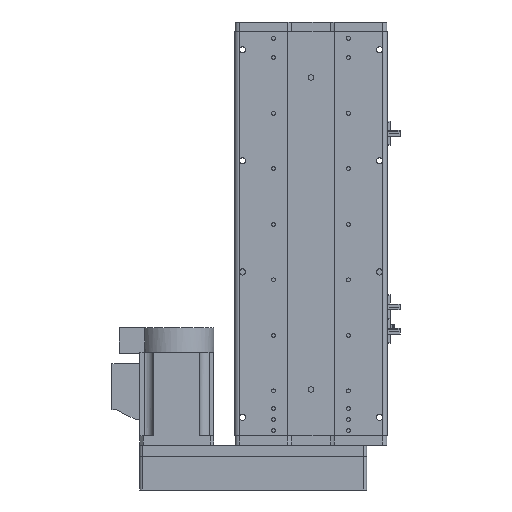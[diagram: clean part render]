
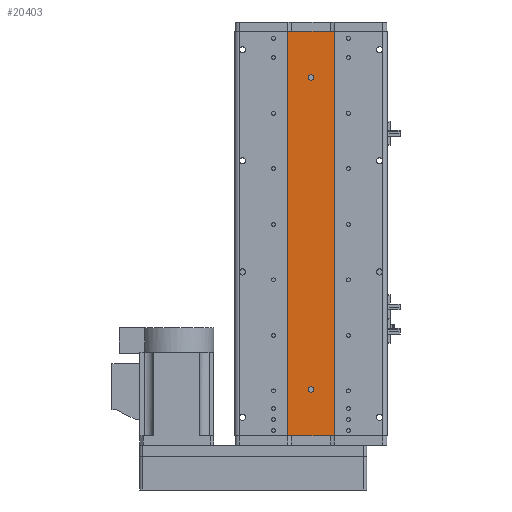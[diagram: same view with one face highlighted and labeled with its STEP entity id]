
A CAD part, front view. The second image highlights one B-rep face of the part: STEP entity #20403.
In plain terms, the highlighted planar face has unit normal (0, -1, 0).
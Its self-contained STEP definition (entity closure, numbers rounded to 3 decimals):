
#8 = DIRECTION ( 'NONE',  ( 0., -1., 0. ) ) ;
#1092 = EDGE_CURVE ( 'NONE', #8322, #7654, #23249, .T. ) ;
#2626 = EDGE_CURVE ( 'NONE', #56990, #32865, #45522, .T. ) ;
#2985 = EDGE_CURVE ( 'NONE', #8415, #19028, #6235, .T. ) ;
#3664 = CARTESIAN_POINT ( 'NONE',  ( 0., 1., -165.5 ) ) ;
#3671 = LINE ( 'NONE', #57190, #5071 ) ;
#4471 = FACE_OUTER_BOUND ( 'NONE', #32174, .T. ) ;
#4753 = CARTESIAN_POINT ( 'NONE',  ( -25., 1., 218.5 ) ) ;
#5071 = VECTOR ( 'NONE', #34860, 1000. ) ;
#6235 = CIRCLE ( 'NONE', #56275, 3. ) ;
#6298 = EDGE_LOOP ( 'NONE', ( #21657, #53363 ) ) ;
#6523 = EDGE_CURVE ( 'NONE', #21992, #30454, #3671, .T. ) ;
#7654 = VERTEX_POINT ( 'NONE', #30301 ) ;
#8322 = VERTEX_POINT ( 'NONE', #4753 ) ;
#8415 = VERTEX_POINT ( 'NONE', #45686 ) ;
#8913 = CARTESIAN_POINT ( 'NONE',  ( 0., 1., -168.5 ) ) ;
#9467 = VECTOR ( 'NONE', #25029, 1000. ) ;
#12277 = LINE ( 'NONE', #20548, #9467 ) ;
#13111 = CARTESIAN_POINT ( 'NONE',  ( 25., 1., 218.5 ) ) ;
#13415 = DIRECTION ( 'NONE',  ( 0., 0., -1. ) ) ;
#14713 = CARTESIAN_POINT ( 'NONE',  ( 25., 1., 218.5 ) ) ;
#16348 = EDGE_CURVE ( 'NONE', #19028, #8415, #55680, .T. ) ;
#17461 = AXIS2_PLACEMENT_3D ( 'NONE', #26807, #8, #31327 ) ;
#17597 = PLANE ( 'NONE',  #45553 ) ;
#19028 = VERTEX_POINT ( 'NONE', #33687 ) ;
#20403 = ADVANCED_FACE ( 'NONE', ( #25463, #37374, #4471 ), #17597, .F. ) ;
#20548 = CARTESIAN_POINT ( 'NONE',  ( 25., 1., 218.5 ) ) ;
#21657 = ORIENTED_EDGE ( 'NONE', *, *, #2985, .F. ) ;
#21992 = VERTEX_POINT ( 'NONE', #26593 ) ;
#22110 = DIRECTION ( 'NONE',  ( 0., 0., 1. ) ) ;
#22641 = CARTESIAN_POINT ( 'NONE',  ( 0., 1., -168.5 ) ) ;
#22859 = ORIENTED_EDGE ( 'NONE', *, *, #6523, .T. ) ;
#23249 = LINE ( 'NONE', #14713, #45706 ) ;
#24699 = ORIENTED_EDGE ( 'NONE', *, *, #55101, .T. ) ;
#25029 = DIRECTION ( 'NONE',  ( 0., 0., -1. ) ) ;
#25463 = FACE_BOUND ( 'NONE', #44913, .T. ) ;
#26066 = CARTESIAN_POINT ( 'NONE',  ( 0., 1., 168.5 ) ) ;
#26593 = CARTESIAN_POINT ( 'NONE',  ( -25., 1., -218.5 ) ) ;
#26668 = CARTESIAN_POINT ( 'NONE',  ( -25., 1., 218.5 ) ) ;
#26807 = CARTESIAN_POINT ( 'NONE',  ( 0., 1., 168.5 ) ) ;
#26808 = CIRCLE ( 'NONE', #35048, 3. ) ;
#27125 = DIRECTION ( 'NONE',  ( 0., 0., -1. ) ) ;
#29280 = ORIENTED_EDGE ( 'NONE', *, *, #30529, .F. ) ;
#30301 = CARTESIAN_POINT ( 'NONE',  ( 25., 1., 218.5 ) ) ;
#30454 = VERTEX_POINT ( 'NONE', #38159 ) ;
#30529 = EDGE_CURVE ( 'NONE', #7654, #30454, #12277, .T. ) ;
#30608 = DIRECTION ( 'NONE',  ( 0., 0., -1. ) ) ;
#31172 = DIRECTION ( 'NONE',  ( 0., 0., -1. ) ) ;
#31327 = DIRECTION ( 'NONE',  ( 0., 0., -1. ) ) ;
#31361 = EDGE_CURVE ( 'NONE', #32865, #56990, #26808, .T. ) ;
#32174 = EDGE_LOOP ( 'NONE', ( #22859, #29280, #54609, #24699 ) ) ;
#32865 = VERTEX_POINT ( 'NONE', #49222 ) ;
#33350 = AXIS2_PLACEMENT_3D ( 'NONE', #22641, #54020, #27125 ) ;
#33687 = CARTESIAN_POINT ( 'NONE',  ( 0., 1., 171.5 ) ) ;
#33944 = ORIENTED_EDGE ( 'NONE', *, *, #2626, .F. ) ;
#34860 = DIRECTION ( 'NONE',  ( 1., 0., 0. ) ) ;
#35048 = AXIS2_PLACEMENT_3D ( 'NONE', #8913, #40224, #13415 ) ;
#37028 = DIRECTION ( 'NONE',  ( 1., 0., 0. ) ) ;
#37374 = FACE_BOUND ( 'NONE', #6298, .T. ) ;
#38159 = CARTESIAN_POINT ( 'NONE',  ( 25., 1., -218.5 ) ) ;
#40224 = DIRECTION ( 'NONE',  ( 0., -1., 0. ) ) ;
#44056 = LINE ( 'NONE', #26668, #55986 ) ;
#44913 = EDGE_LOOP ( 'NONE', ( #47492, #33944 ) ) ;
#45522 = CIRCLE ( 'NONE', #33350, 3. ) ;
#45553 = AXIS2_PLACEMENT_3D ( 'NONE', #13111, #48944, #22110 ) ;
#45686 = CARTESIAN_POINT ( 'NONE',  ( 0., 1., 165.5 ) ) ;
#45706 = VECTOR ( 'NONE', #37028, 1000. ) ;
#47492 = ORIENTED_EDGE ( 'NONE', *, *, #31361, .F. ) ;
#48944 = DIRECTION ( 'NONE',  ( 0., 1., 0. ) ) ;
#49222 = CARTESIAN_POINT ( 'NONE',  ( 0., 1., -171.5 ) ) ;
#53363 = ORIENTED_EDGE ( 'NONE', *, *, #16348, .F. ) ;
#54020 = DIRECTION ( 'NONE',  ( 0., -1., 0. ) ) ;
#54609 = ORIENTED_EDGE ( 'NONE', *, *, #1092, .F. ) ;
#55101 = EDGE_CURVE ( 'NONE', #8322, #21992, #44056, .T. ) ;
#55680 = CIRCLE ( 'NONE', #17461, 3. ) ;
#55986 = VECTOR ( 'NONE', #31172, 1000. ) ;
#56275 = AXIS2_PLACEMENT_3D ( 'NONE', #26066, #57453, #30608 ) ;
#56990 = VERTEX_POINT ( 'NONE', #3664 ) ;
#57190 = CARTESIAN_POINT ( 'NONE',  ( 25., 1., -218.5 ) ) ;
#57453 = DIRECTION ( 'NONE',  ( 0., -1., 0. ) ) ;
